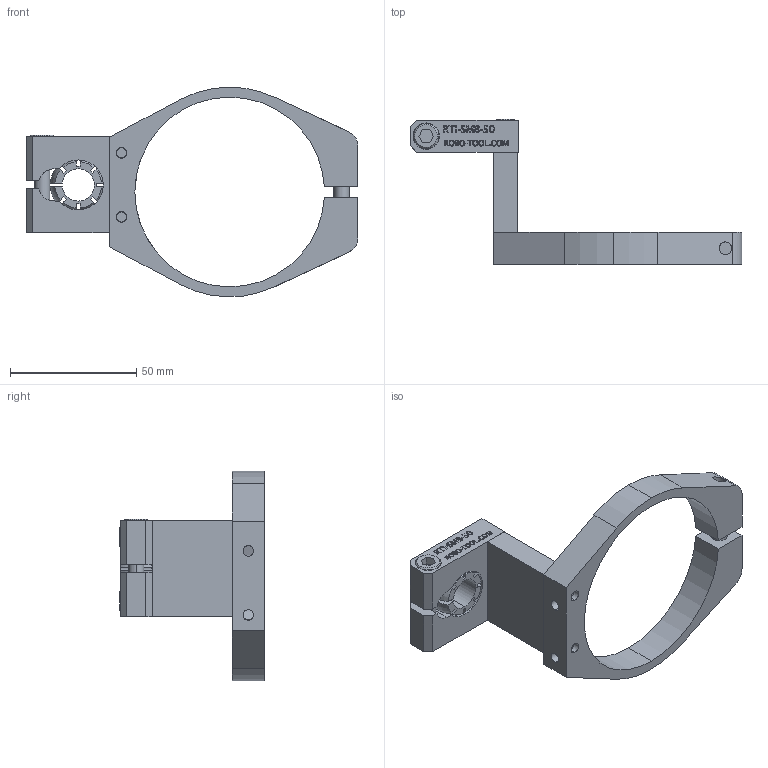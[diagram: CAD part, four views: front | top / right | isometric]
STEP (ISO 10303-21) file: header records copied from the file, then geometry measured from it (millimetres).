
FILE_DESCRIPTION (( 'STEP AP214' ), '1' );
FILE_NAME ('RTI-SNM-50-SPT50-125.STEP', '2013-10-22T20:17:25', ( 'user' ), ( '' ), 'SwSTEP 2.0', 'SolidWorks 2009', '' );
FILE_SCHEMA (( 'AUTOMOTIVE_DESIGN' ));
Length unit declared in the file: inch
Products named in the file (11): RTI-SMB-50; .875 OD_.502 ID_Swivel_Ball; RTI-NM-SPT50; RTI-NM-75-B; M6 S.H.C.S._M6x30mm; M6 WASHER; RTI-SM-SP-125; M5 WASHER; M5 S.H.C.S._M5x50mm; RTI-SNM-50-SPT50-125
Assembly tree (14 placements, depth 3):
  RTI-SNM-50-SPT50-125
    RTI-SM-SP-125
    M5 WASHER  x2
    RTI-NM-SPT50
      RTI-NM-75-B
      M6 WASHER
      M6 S.H.C.S._M6x30mm
    RTI-SMB-50
      .875 OD_.502 ID_Swivel_Ball
      M6 WASHER
      M6 S.H.C.S._M6x30mm
      RTI-SMB-50
    M5 S.H.C.S._M5x50mm  x2
Bounding box: 131.47 x 57.4 x 83.09 mm (x, y, z)
Volume: 54456.8 mm3; surface area: 30576.2 mm2
Topology: 12 solids, 12 shells, 1082 faces, 2803 edges, 1863 vertices
Faces by surface type: plane 660, bspline 312, cylinder 83, cone 17, torus 8, sphere 2
Entity records: 62644 total; most frequent: CARTESIAN_POINT 27856, ORIENTED_EDGE 5396, DIRECTION 3682, EDGE_CURVE 2698, LINE 1886, VECTOR 1886, VERTEX_POINT 1796, EDGE_LOOP 1178
